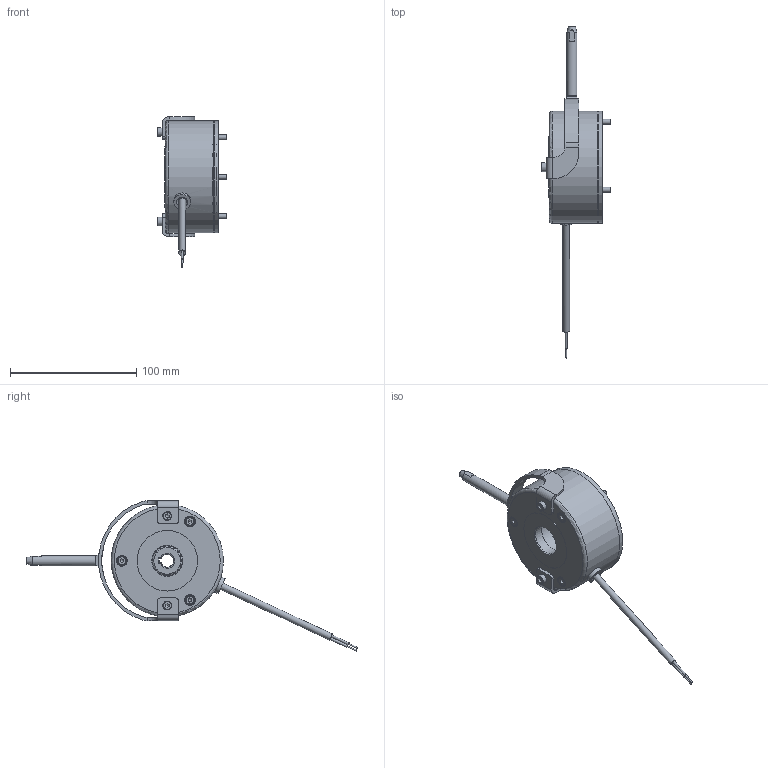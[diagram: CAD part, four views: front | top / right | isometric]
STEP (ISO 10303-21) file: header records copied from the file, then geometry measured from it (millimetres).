
FILE_DESCRIPTION(/* description */ (''),/* implementation_level */ '2;1');
FILE_NAME(/* name */ 'C:\SapWorkDir\Inventor\IP1\ConvertTempPath\5028607_IPT_000.ipt.stp',/* time_stamp */ '2020-09-10T10:51:38+02:00',/* author */ ('STRATE'),/* organization */ (''),/* preprocessor_version */ 'ST-DEVELOPER v17',/* originating_system */ 'Autodesk Inventor 2018',/* authorisation */ '');
FILE_SCHEMA (('AUTOMOTIVE_DESIGN { 1 0 10303 214 3 1 1 }'));
Length unit declared in the file: millimetre
Products named in the file (1): 5028607
Bounding box: 55.5 x 263.21 x 119.15 mm (x, y, z)
Volume: 203688.1 mm3; surface area: 65588.2 mm2
Topology: 4 solids, 4 shells, 378 faces, 1024 edges, 691 vertices
Faces by surface type: cylinder 203, plane 124, cone 29, torus 22
Full cylindrical faces by diameter (mm): 1 x2, 1.85 x2, 3 x1, 4 x5, 4.134 x1, 4.5 x3, 5.3 x1, 6.6 x1, 7 x5, 7.9 x3, 8 x1, 8.6 x3, 13.2 x1, 24 x1, 29 x1, 30.8 x1, 31 x1, 39.5 x2, 48 x1, 60 x1, 81 x1, 87 x2, 89 x2
Entity records: 13267 total; most frequent: CARTESIAN_POINT 3117, ORIENTED_EDGE 2044, DIRECTION 2026, EDGE_CURVE 1022, AXIS2_PLACEMENT_3D 817, VERTEX_POINT 691, EDGE_LOOP 443, CIRCLE 438
